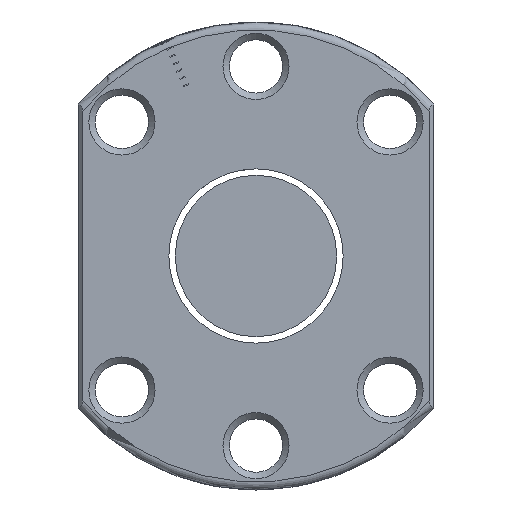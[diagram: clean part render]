
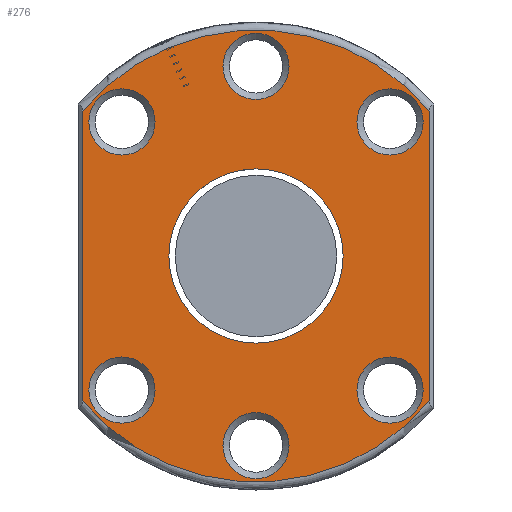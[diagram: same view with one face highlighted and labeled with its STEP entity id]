
A CAD part, left-side view. The second image highlights one B-rep face of the part: STEP entity #276.
In plain terms, the highlighted planar face has unit normal (-1, 0, 0).
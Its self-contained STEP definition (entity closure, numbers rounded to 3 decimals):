
#4 = DIRECTION ( 'NONE',  ( 1., 0., 0. ) ) ;
#15 = VERTEX_POINT ( 'NONE', #2252 ) ;
#28 = VECTOR ( 'NONE', #2580, 1000. ) ;
#94 = CARTESIAN_POINT ( 'NONE',  ( -42., 0., -23.5 ) ) ;
#164 = DIRECTION ( 'NONE',  ( 0., 0., 1. ) ) ;
#167 = DIRECTION ( 'NONE',  ( 0., 0., -1. ) ) ;
#182 = FACE_OUTER_BOUND ( 'NONE', #2231, .T. ) ;
#213 = AXIS2_PLACEMENT_3D ( 'NONE', #94, #378, #3019 ) ;
#217 = DIRECTION ( 'NONE',  ( 0., 0., -1. ) ) ;
#239 = ORIENTED_EDGE ( 'NONE', *, *, #364, .T. ) ;
#276 = ADVANCED_FACE ( 'NONE', ( #2807, #646, #1886, #613, #2789, #371, #182, #1383 ), #1338, .T. ) ;
#324 = DIRECTION ( 'NONE',  ( 1., 0., 0. ) ) ;
#364 = EDGE_CURVE ( 'NONE', #1906, #486, #2337, .T. ) ;
#366 = CIRCLE ( 'NONE', #1276, 4.1 ) ;
#369 = CIRCLE ( 'NONE', #1035, 4.1 ) ;
#371 = FACE_BOUND ( 'NONE', #1100, .T. ) ;
#378 = DIRECTION ( 'NONE',  ( 1., 0., 0. ) ) ;
#411 = EDGE_CURVE ( 'NONE', #2766, #2766, #908, .T. ) ;
#427 = ORIENTED_EDGE ( 'NONE', *, *, #1075, .T. ) ;
#439 = ORIENTED_EDGE ( 'NONE', *, *, #1333, .T. ) ;
#443 = DIRECTION ( 'NONE',  ( -1., 0., 0. ) ) ;
#453 = CARTESIAN_POINT ( 'NONE',  ( -42., 21.5, -17.937 ) ) ;
#467 = CIRCLE ( 'NONE', #2440, 4.1 ) ;
#486 = VERTEX_POINT ( 'NONE', #1879 ) ;
#520 = VECTOR ( 'NONE', #167, 1000. ) ;
#533 = EDGE_CURVE ( 'NONE', #486, #1404, #2903, .T. ) ;
#613 = FACE_BOUND ( 'NONE', #2866, .T. ) ;
#621 = CARTESIAN_POINT ( 'NONE',  ( -42., 16.617, -12.517 ) ) ;
#634 = ORIENTED_EDGE ( 'NONE', *, *, #1695, .T. ) ;
#638 = CARTESIAN_POINT ( 'NONE',  ( -42., 16.617, 16.617 ) ) ;
#644 = EDGE_CURVE ( 'NONE', #2067, #2067, #860, .T. ) ;
#646 = FACE_BOUND ( 'NONE', #1257, .T. ) ;
#647 = AXIS2_PLACEMENT_3D ( 'NONE', #2351, #1574, #907 ) ;
#661 = DIRECTION ( 'NONE',  ( 1., 0., 0. ) ) ;
#679 = CIRCLE ( 'NONE', #213, 4.1 ) ;
#853 = DIRECTION ( 'NONE',  ( 1., 0., 0. ) ) ;
#860 = CIRCLE ( 'NONE', #3016, 4.1 ) ;
#871 = CARTESIAN_POINT ( 'NONE',  ( -42., 0., -10.8 ) ) ;
#886 = VERTEX_POINT ( 'NONE', #871 ) ;
#903 = DIRECTION ( 'NONE',  ( 0., 0., 1. ) ) ;
#907 = DIRECTION ( 'NONE',  ( 0., 0., 1. ) ) ;
#908 = CIRCLE ( 'NONE', #1553, 4.1 ) ;
#917 = EDGE_CURVE ( 'NONE', #3035, #3035, #366, .T. ) ;
#967 = ORIENTED_EDGE ( 'NONE', *, *, #1601, .T. ) ;
#1009 = EDGE_LOOP ( 'NONE', ( #1514 ) ) ;
#1035 = AXIS2_PLACEMENT_3D ( 'NONE', #2190, #4, #2443 ) ;
#1053 = DIRECTION ( 'NONE',  ( 0., 0., 1. ) ) ;
#1075 = EDGE_CURVE ( 'NONE', #886, #886, #2240, .T. ) ;
#1100 = EDGE_LOOP ( 'NONE', ( #1311 ) ) ;
#1101 = CARTESIAN_POINT ( 'NONE',  ( -42., 21.5, 17.937 ) ) ;
#1153 = CARTESIAN_POINT ( 'NONE',  ( -42., 0., 23.5 ) ) ;
#1185 = CARTESIAN_POINT ( 'NONE',  ( -42., 0., 0. ) ) ;
#1257 = EDGE_LOOP ( 'NONE', ( #2357 ) ) ;
#1276 = AXIS2_PLACEMENT_3D ( 'NONE', #638, #3067, #903 ) ;
#1297 = EDGE_CURVE ( 'NONE', #2782, #2782, #467, .T. ) ;
#1299 = CARTESIAN_POINT ( 'NONE',  ( -42., 16.617, 20.717 ) ) ;
#1307 = CARTESIAN_POINT ( 'NONE',  ( -42., -16.617, 16.617 ) ) ;
#1311 = ORIENTED_EDGE ( 'NONE', *, *, #411, .T. ) ;
#1333 = EDGE_CURVE ( 'NONE', #1845, #1845, #679, .T. ) ;
#1338 = PLANE ( 'NONE',  #647 ) ;
#1383 = FACE_BOUND ( 'NONE', #2796, .T. ) ;
#1403 = DIRECTION ( 'NONE',  ( -1., 0., 0. ) ) ;
#1404 = VERTEX_POINT ( 'NONE', #1101 ) ;
#1489 = CIRCLE ( 'NONE', #2950, 28. ) ;
#1514 = ORIENTED_EDGE ( 'NONE', *, *, #644, .T. ) ;
#1534 = ORIENTED_EDGE ( 'NONE', *, *, #917, .T. ) ;
#1553 = AXIS2_PLACEMENT_3D ( 'NONE', #1153, #661, #164 ) ;
#1574 = DIRECTION ( 'NONE',  ( -1., 0., 0. ) ) ;
#1601 = EDGE_CURVE ( 'NONE', #1404, #1791, #2340, .T. ) ;
#1630 = ORIENTED_EDGE ( 'NONE', *, *, #2709, .T. ) ;
#1695 = EDGE_CURVE ( 'NONE', #15, #15, #369, .T. ) ;
#1756 = CARTESIAN_POINT ( 'NONE',  ( -42., 0., 0. ) ) ;
#1791 = VERTEX_POINT ( 'NONE', #453 ) ;
#1815 = AXIS2_PLACEMENT_3D ( 'NONE', #2097, #443, #1894 ) ;
#1845 = VERTEX_POINT ( 'NONE', #2816 ) ;
#1879 = CARTESIAN_POINT ( 'NONE',  ( -42., -21.5, 17.937 ) ) ;
#1881 = EDGE_LOOP ( 'NONE', ( #1534 ) ) ;
#1886 = FACE_BOUND ( 'NONE', #3066, .T. ) ;
#1894 = DIRECTION ( 'NONE',  ( 0., 0., 1. ) ) ;
#1903 = CARTESIAN_POINT ( 'NONE',  ( -42., 21.5, -18.894 ) ) ;
#1906 = VERTEX_POINT ( 'NONE', #2164 ) ;
#2067 = VERTEX_POINT ( 'NONE', #2505 ) ;
#2077 = DIRECTION ( 'NONE',  ( 0., 0., 1. ) ) ;
#2097 = CARTESIAN_POINT ( 'NONE',  ( -42., 0., 0. ) ) ;
#2164 = CARTESIAN_POINT ( 'NONE',  ( -42., -21.5, -17.937 ) ) ;
#2190 = CARTESIAN_POINT ( 'NONE',  ( -42., -16.617, -16.617 ) ) ;
#2226 = DIRECTION ( 'NONE',  ( 0., 0., 1. ) ) ;
#2231 = EDGE_LOOP ( 'NONE', ( #967, #1630, #239, #3109 ) ) ;
#2240 = CIRCLE ( 'NONE', #3045, 10.8 ) ;
#2249 = CARTESIAN_POINT ( 'NONE',  ( -42., 16.617, -16.617 ) ) ;
#2252 = CARTESIAN_POINT ( 'NONE',  ( -42., -16.617, -12.517 ) ) ;
#2321 = CARTESIAN_POINT ( 'NONE',  ( -42., -21.5, 18.894 ) ) ;
#2337 = LINE ( 'NONE', #2321, #28 ) ;
#2340 = LINE ( 'NONE', #1903, #520 ) ;
#2351 = CARTESIAN_POINT ( 'NONE',  ( -42., 29., 0. ) ) ;
#2357 = ORIENTED_EDGE ( 'NONE', *, *, #1297, .T. ) ;
#2394 = DIRECTION ( 'NONE',  ( 1., 0., 0. ) ) ;
#2440 = AXIS2_PLACEMENT_3D ( 'NONE', #2249, #853, #1053 ) ;
#2443 = DIRECTION ( 'NONE',  ( 0., 0., 1. ) ) ;
#2505 = CARTESIAN_POINT ( 'NONE',  ( -42., -16.617, 20.717 ) ) ;
#2539 = CARTESIAN_POINT ( 'NONE',  ( -42., 0., 27.6 ) ) ;
#2580 = DIRECTION ( 'NONE',  ( 0., 0., 1. ) ) ;
#2709 = EDGE_CURVE ( 'NONE', #1791, #1906, #1489, .T. ) ;
#2766 = VERTEX_POINT ( 'NONE', #2539 ) ;
#2782 = VERTEX_POINT ( 'NONE', #621 ) ;
#2789 = FACE_BOUND ( 'NONE', #1009, .T. ) ;
#2796 = EDGE_LOOP ( 'NONE', ( #427 ) ) ;
#2807 = FACE_BOUND ( 'NONE', #1881, .T. ) ;
#2816 = CARTESIAN_POINT ( 'NONE',  ( -42., 0., -19.4 ) ) ;
#2866 = EDGE_LOOP ( 'NONE', ( #634 ) ) ;
#2903 = CIRCLE ( 'NONE', #1815, 28. ) ;
#2950 = AXIS2_PLACEMENT_3D ( 'NONE', #1756, #1403, #2077 ) ;
#3016 = AXIS2_PLACEMENT_3D ( 'NONE', #1307, #324, #2226 ) ;
#3019 = DIRECTION ( 'NONE',  ( 0., 0., 1. ) ) ;
#3035 = VERTEX_POINT ( 'NONE', #1299 ) ;
#3045 = AXIS2_PLACEMENT_3D ( 'NONE', #1185, #2394, #217 ) ;
#3066 = EDGE_LOOP ( 'NONE', ( #439 ) ) ;
#3067 = DIRECTION ( 'NONE',  ( 1., 0., 0. ) ) ;
#3109 = ORIENTED_EDGE ( 'NONE', *, *, #533, .T. ) ;
